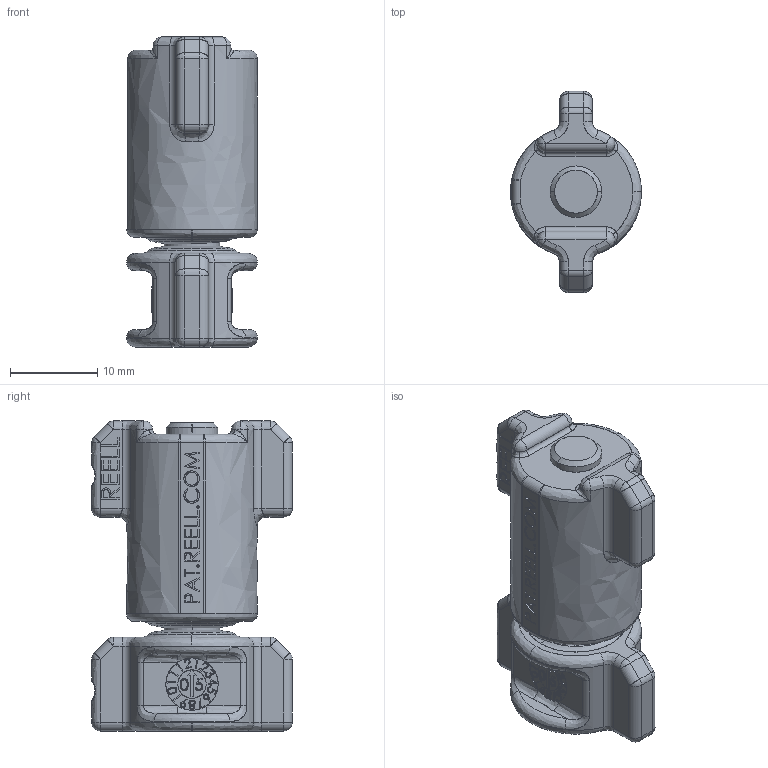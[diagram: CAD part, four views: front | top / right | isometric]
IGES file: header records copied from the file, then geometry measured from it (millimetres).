
Start section: SolidWorks IGES file using analytic representation for surfaces
Global section: file name: G:\RELEASED\FINALS\40-xxx TI-140\TI-140-X.XX-02.IGS; native system: SolidWorks 2017; preprocessor: SolidWorks 2017; author: hmanderson; date: 180810.090233; units: millimetre
Bounding box: 15 x 23 x 35.5 mm (x, y, z)
Surface area: 3498.8 mm2 (no closed solid volume)
Topology: 0 solids, 0 shells, 947 faces, 9242 edges, 9219 vertices
Faces by surface type: bspline 789, revolution 158
